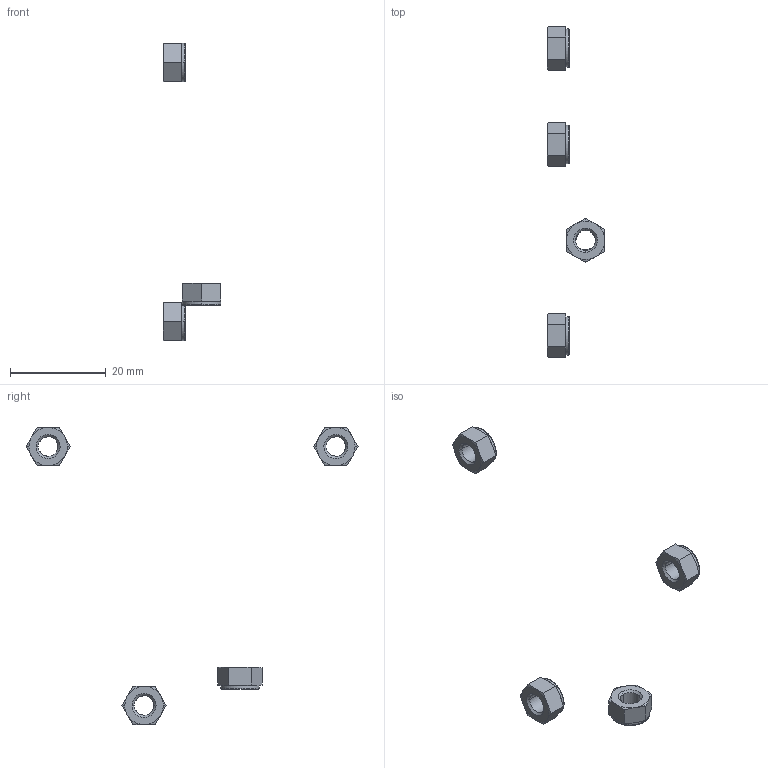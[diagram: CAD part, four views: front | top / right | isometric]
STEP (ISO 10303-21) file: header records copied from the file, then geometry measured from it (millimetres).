
FILE_DESCRIPTION(/* description */ (''),/* implementation_level */ '2;1');
FILE_NAME(/* name */ '5.y-cart#5.2#PACK-UNUT5',/* time_stamp */ '2014-12-01T20:13:17+01:00',/* author */ (''),/* organization */ (''),/* preprocessor_version */ 'ST-DEVELOPER v14',/* originating_system */ '',/* authorisation */ '');
FILE_SCHEMA (('AUTOMOTIVE_DESIGN'));
Length unit declared in the file: millimetre
Products named in the file (2): Document; nut DIN985-like, lock, M5
Assembly tree (4 placements, depth 2):
  Document
    nut DIN985-like, lock, M5  x4
Bounding box: 12 x 69.24 x 62 mm (x, y, z)
Volume: 703.9 mm3; surface area: 1087 mm2
Topology: 4 solids, 4 shells, 216 faces, 520 edges, 312 vertices
Faces by surface type: bspline 124, plane 92
Entity records: 3598 total; most frequent: CARTESIAN_POINT 1917, ORIENTED_EDGE 260, PCURVE 260, DEFINITIONAL_REPRESENTATION 260, B_SPLINE_CURVE_WITH_KNOTS 249, SURFACE_CURVE 130, EDGE_CURVE 130, VERTEX_POINT 78
